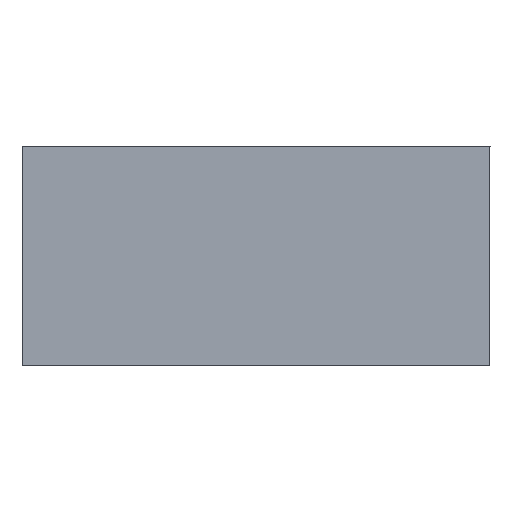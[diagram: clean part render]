
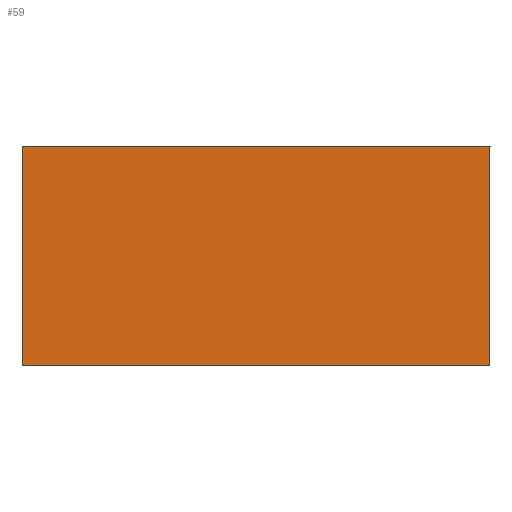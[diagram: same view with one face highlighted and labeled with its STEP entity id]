
A CAD part, left-side view. The second image highlights one B-rep face of the part: STEP entity #59.
In plain terms, the highlighted planar face has unit normal (-1, 0, 0).
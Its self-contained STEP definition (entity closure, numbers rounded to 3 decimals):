
#4 = LINE ( 'NONE', #101, #94 ) ;
#7 = DIRECTION ( 'NONE',  ( 0., 1., 0. ) ) ;
#18 = ORIENTED_EDGE ( 'NONE', *, *, #34, .F. ) ;
#21 = FACE_OUTER_BOUND ( 'NONE', #54, .T. ) ;
#30 = AXIS2_PLACEMENT_3D ( 'NONE', #103, #141, #97 ) ;
#34 = EDGE_CURVE ( 'NONE', #95, #48, #117, .T. ) ;
#42 = CARTESIAN_POINT ( 'NONE',  ( 0., -34.69, 50.31 ) ) ;
#48 = VERTEX_POINT ( 'NONE', #136 ) ;
#54 = EDGE_LOOP ( 'NONE', ( #116, #18, #233, #133 ) ) ;
#59 = ADVANCED_FACE ( 'NONE', ( #21 ), #191, .T. ) ;
#65 = EDGE_CURVE ( 'NONE', #150, #235, #195, .T. ) ;
#83 = DIRECTION ( 'NONE',  ( 0., -1., 0. ) ) ;
#87 = EDGE_CURVE ( 'NONE', #235, #95, #4, .T. ) ;
#90 = CARTESIAN_POINT ( 'NONE',  ( 0., -34.69, 50.31 ) ) ;
#94 = VECTOR ( 'NONE', #179, 1000. ) ;
#95 = VERTEX_POINT ( 'NONE', #210 ) ;
#97 = DIRECTION ( 'NONE',  ( 0., -1., 0. ) ) ;
#98 = DIRECTION ( 'NONE',  ( 0., 0., -1. ) ) ;
#101 = CARTESIAN_POINT ( 'NONE',  ( 0., -28.29, 50.31 ) ) ;
#103 = CARTESIAN_POINT ( 'NONE',  ( 0., -34.69, 50.31 ) ) ;
#110 = CARTESIAN_POINT ( 'NONE',  ( 0., -28.29, 50.31 ) ) ;
#116 = ORIENTED_EDGE ( 'NONE', *, *, #153, .F. ) ;
#117 = LINE ( 'NONE', #237, #216 ) ;
#133 = ORIENTED_EDGE ( 'NONE', *, *, #65, .F. ) ;
#136 = CARTESIAN_POINT ( 'NONE',  ( 0., -34.69, 53.31 ) ) ;
#141 = DIRECTION ( 'NONE',  ( -1., 0., 0. ) ) ;
#150 = VERTEX_POINT ( 'NONE', #90 ) ;
#153 = EDGE_CURVE ( 'NONE', #48, #150, #193, .T. ) ;
#154 = VECTOR ( 'NONE', #98, 1000. ) ;
#179 = DIRECTION ( 'NONE',  ( 0., 0., 1. ) ) ;
#191 = PLANE ( 'NONE',  #30 ) ;
#193 = LINE ( 'NONE', #42, #154 ) ;
#195 = LINE ( 'NONE', #225, #236 ) ;
#210 = CARTESIAN_POINT ( 'NONE',  ( 0., -28.29, 53.31 ) ) ;
#216 = VECTOR ( 'NONE', #83, 1000. ) ;
#225 = CARTESIAN_POINT ( 'NONE',  ( 0., -34.69, 50.31 ) ) ;
#233 = ORIENTED_EDGE ( 'NONE', *, *, #87, .F. ) ;
#235 = VERTEX_POINT ( 'NONE', #110 ) ;
#236 = VECTOR ( 'NONE', #7, 1000. ) ;
#237 = CARTESIAN_POINT ( 'NONE',  ( 0., -34.69, 53.31 ) ) ;
